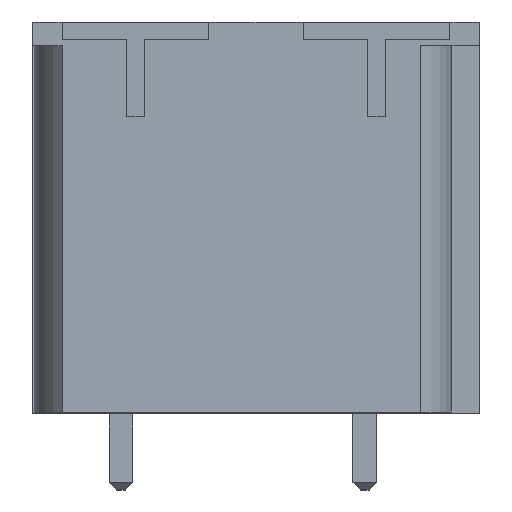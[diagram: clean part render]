
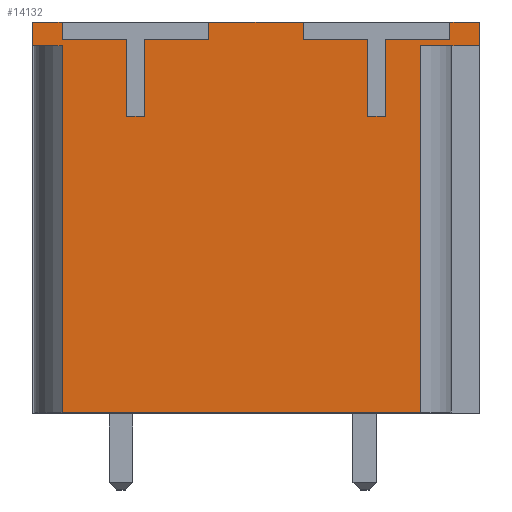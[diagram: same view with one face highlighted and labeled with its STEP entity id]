
A CAD part, top view. The second image highlights one B-rep face of the part: STEP entity #14132.
In plain terms, the highlighted planar face has unit normal (0, 0, 1).
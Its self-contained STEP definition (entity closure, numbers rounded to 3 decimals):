
#1538=DIRECTION('',(-1.,0.,0.));
#1539=VECTOR('',#1538,1.);
#1540=CARTESIAN_POINT('',(15.2,15.9,-10.873));
#1541=LINE('',#1540,#1539);
#1546=DIRECTION('',(-1.,0.,0.));
#1547=VECTOR('',#1546,3.2);
#1548=CARTESIAN_POINT('',(9.2,15.9,-10.873));
#1549=LINE('',#1548,#1547);
#1554=DIRECTION('',(-1.,0.,0.));
#1555=VECTOR('',#1554,1.);
#1556=CARTESIAN_POINT('',(1.,15.9,-10.873));
#1557=LINE('',#1556,#1555);
#2056=DIRECTION('',(0.,1.,0.));
#2057=VECTOR('',#2056,0.8);
#2058=CARTESIAN_POINT('',(15.2,15.1,-10.873));
#2059=LINE('',#2058,#2057);
#2650=DIRECTION('',(1.,0.,0.));
#2651=VECTOR('',#2650,12.2);
#2652=CARTESIAN_POINT('',(1.,2.6,-10.873));
#2653=LINE('',#2652,#2651);
#2955=DIRECTION('',(0.,-1.,0.));
#2956=VECTOR('',#2955,0.8);
#2957=CARTESIAN_POINT('',(0.,15.9,-10.873));
#2958=LINE('',#2957,#2956);
#2972=DIRECTION('',(0.,-1.,0.));
#2973=VECTOR('',#2972,12.5);
#2974=CARTESIAN_POINT('',(1.,15.1,-10.873));
#2975=LINE('',#2974,#2973);
#2980=DIRECTION('',(0.,1.,0.));
#2981=VECTOR('',#2980,0.6);
#2982=CARTESIAN_POINT('',(14.2,15.3,-10.873));
#2983=LINE('',#2982,#2981);
#2984=DIRECTION('',(-1.,0.,0.));
#2985=VECTOR('',#2984,2.);
#2986=CARTESIAN_POINT('',(15.2,15.1,-10.873));
#2987=LINE('',#2986,#2985);
#2988=DIRECTION('',(0.,-1.,0.));
#2989=VECTOR('',#2988,12.5);
#2990=CARTESIAN_POINT('',(13.2,15.1,-10.873));
#2991=LINE('',#2990,#2989);
#2992=DIRECTION('',(-1.,0.,0.));
#2993=VECTOR('',#2992,1.);
#2994=CARTESIAN_POINT('',(1.,15.1,-10.873));
#2995=LINE('',#2994,#2993);
#2996=DIRECTION('',(0.,1.,0.));
#2997=VECTOR('',#2996,0.6);
#2998=CARTESIAN_POINT('',(6.,15.3,-10.873));
#2999=LINE('',#2998,#2997);
#3000=DIRECTION('',(0.,1.,0.));
#3001=VECTOR('',#3000,0.6);
#3002=CARTESIAN_POINT('',(9.2,15.3,-10.873));
#3003=LINE('',#3002,#3001);
#3044=DIRECTION('',(-1.,0.,0.));
#3045=VECTOR('',#3044,2.2);
#3046=CARTESIAN_POINT('',(14.2,15.3,-10.873));
#3047=LINE('',#3046,#3045);
#3052=DIRECTION('',(0.,-1.,0.));
#3053=VECTOR('',#3052,2.6);
#3054=CARTESIAN_POINT('',(12.,15.3,-10.873));
#3055=LINE('',#3054,#3053);
#3060=DIRECTION('',(-1.,0.,0.));
#3061=VECTOR('',#3060,0.6);
#3062=CARTESIAN_POINT('',(12.,12.7,-10.873));
#3063=LINE('',#3062,#3061);
#3068=DIRECTION('',(0.,1.,0.));
#3069=VECTOR('',#3068,2.6);
#3070=CARTESIAN_POINT('',(11.4,12.7,-10.873));
#3071=LINE('',#3070,#3069);
#3076=DIRECTION('',(-1.,0.,0.));
#3077=VECTOR('',#3076,2.2);
#3078=CARTESIAN_POINT('',(11.4,15.3,-10.873));
#3079=LINE('',#3078,#3077);
#3125=DIRECTION('',(0.,1.,0.));
#3126=VECTOR('',#3125,0.6);
#3127=CARTESIAN_POINT('',(1.,15.3,-10.873));
#3128=LINE('',#3127,#3126);
#3169=DIRECTION('',(-1.,0.,0.));
#3170=VECTOR('',#3169,2.2);
#3171=CARTESIAN_POINT('',(6.,15.3,-10.873));
#3172=LINE('',#3171,#3170);
#3177=DIRECTION('',(0.,-1.,0.));
#3178=VECTOR('',#3177,2.6);
#3179=CARTESIAN_POINT('',(3.8,15.3,-10.873));
#3180=LINE('',#3179,#3178);
#3185=DIRECTION('',(-1.,0.,0.));
#3186=VECTOR('',#3185,0.6);
#3187=CARTESIAN_POINT('',(3.8,12.7,-10.873));
#3188=LINE('',#3187,#3186);
#3193=DIRECTION('',(0.,1.,0.));
#3194=VECTOR('',#3193,2.6);
#3195=CARTESIAN_POINT('',(3.2,12.7,-10.873));
#3196=LINE('',#3195,#3194);
#3201=DIRECTION('',(-1.,0.,0.));
#3202=VECTOR('',#3201,2.2);
#3203=CARTESIAN_POINT('',(3.2,15.3,-10.873));
#3204=LINE('',#3203,#3202);
#7460=CARTESIAN_POINT('',(15.2,15.1,-10.873));
#7461=VERTEX_POINT('',#7460);
#7462=CARTESIAN_POINT('',(15.2,15.9,-10.873));
#7463=VERTEX_POINT('',#7462);
#7586=CARTESIAN_POINT('',(14.2,15.9,-10.873));
#7587=VERTEX_POINT('',#7586);
#7592=CARTESIAN_POINT('',(9.2,15.9,-10.873));
#7593=VERTEX_POINT('',#7592);
#7594=CARTESIAN_POINT('',(6.,15.9,-10.873));
#7595=VERTEX_POINT('',#7594);
#7600=CARTESIAN_POINT('',(1.,15.9,-10.873));
#7601=VERTEX_POINT('',#7600);
#7602=CARTESIAN_POINT('',(0.,15.9,-10.873));
#7603=VERTEX_POINT('',#7602);
#7998=CARTESIAN_POINT('',(9.2,15.3,-10.873));
#7999=VERTEX_POINT('',#7998);
#8000=CARTESIAN_POINT('',(11.4,15.3,-10.873));
#8001=VERTEX_POINT('',#8000);
#8002=CARTESIAN_POINT('',(11.4,12.7,-10.873));
#8003=VERTEX_POINT('',#8002);
#8004=CARTESIAN_POINT('',(12.,12.7,-10.873));
#8005=VERTEX_POINT('',#8004);
#8006=CARTESIAN_POINT('',(12.,15.3,-10.873));
#8007=VERTEX_POINT('',#8006);
#8008=CARTESIAN_POINT('',(14.2,15.3,-10.873));
#8009=VERTEX_POINT('',#8008);
#8010=CARTESIAN_POINT('',(13.2,15.1,-10.873));
#8011=VERTEX_POINT('',#8010);
#8012=CARTESIAN_POINT('',(13.2,2.6,-10.873));
#8013=VERTEX_POINT('',#8012);
#8014=CARTESIAN_POINT('',(1.,2.6,-10.873));
#8015=VERTEX_POINT('',#8014);
#8016=CARTESIAN_POINT('',(1.,15.1,-10.873));
#8017=VERTEX_POINT('',#8016);
#8018=CARTESIAN_POINT('',(0.,15.1,-10.873));
#8019=VERTEX_POINT('',#8018);
#8020=CARTESIAN_POINT('',(1.,15.3,-10.873));
#8021=VERTEX_POINT('',#8020);
#8022=CARTESIAN_POINT('',(3.2,15.3,-10.873));
#8023=VERTEX_POINT('',#8022);
#8024=CARTESIAN_POINT('',(3.2,12.7,-10.873));
#8025=VERTEX_POINT('',#8024);
#8026=CARTESIAN_POINT('',(3.8,12.7,-10.873));
#8027=VERTEX_POINT('',#8026);
#8028=CARTESIAN_POINT('',(3.8,15.3,-10.873));
#8029=VERTEX_POINT('',#8028);
#8030=CARTESIAN_POINT('',(6.,15.3,-10.873));
#8031=VERTEX_POINT('',#8030);
#14085=CARTESIAN_POINT('',(0.,2.6,-10.873));
#14086=DIRECTION('',(0.,0.,-1.));
#14087=DIRECTION('',(0.,1.,0.));
#14088=AXIS2_PLACEMENT_3D('',#14085,#14086,#14087);
#14089=PLANE('',#14088);
#14091=ORIENTED_EDGE('',*,*,#14090,.F.);
#14093=ORIENTED_EDGE('',*,*,#14092,.F.);
#14095=ORIENTED_EDGE('',*,*,#14094,.F.);
#14097=ORIENTED_EDGE('',*,*,#14096,.F.);
#14099=ORIENTED_EDGE('',*,*,#14098,.F.);
#14101=ORIENTED_EDGE('',*,*,#14100,.F.);
#14103=ORIENTED_EDGE('',*,*,#14102,.T.);
#14104=ORIENTED_EDGE('',*,*,#12493,.F.);
#14105=ORIENTED_EDGE('',*,*,#12959,.F.);
#14107=ORIENTED_EDGE('',*,*,#14106,.T.);
#14109=ORIENTED_EDGE('',*,*,#14108,.T.);
#14110=ORIENTED_EDGE('',*,*,#13695,.F.);
#14111=ORIENTED_EDGE('',*,*,#14077,.F.);
#14112=ORIENTED_EDGE('',*,*,#14066,.T.);
#14113=ORIENTED_EDGE('',*,*,#14049,.F.);
#14114=ORIENTED_EDGE('',*,*,#12509,.F.);
#14116=ORIENTED_EDGE('',*,*,#14115,.F.);
#14118=ORIENTED_EDGE('',*,*,#14117,.F.);
#14120=ORIENTED_EDGE('',*,*,#14119,.F.);
#14122=ORIENTED_EDGE('',*,*,#14121,.F.);
#14124=ORIENTED_EDGE('',*,*,#14123,.F.);
#14126=ORIENTED_EDGE('',*,*,#14125,.F.);
#14128=ORIENTED_EDGE('',*,*,#14127,.T.);
#14129=ORIENTED_EDGE('',*,*,#12501,.F.);
#14130=EDGE_LOOP('',(#14091,#14093,#14095,#14097,#14099,#14101,#14103,#14104,
#14105,#14107,#14109,#14110,#14111,#14112,#14113,#14114,#14116,#14118,#14120,
#14122,#14124,#14126,#14128,#14129));
#14131=FACE_OUTER_BOUND('',#14130,.F.);
#14132=ADVANCED_FACE('',(#14131),#14089,.F.);
#12493=EDGE_CURVE('',#7463,#7587,#1541,.T.);
#12501=EDGE_CURVE('',#7593,#7595,#1549,.T.);
#12509=EDGE_CURVE('',#7601,#7603,#1557,.T.);
#12959=EDGE_CURVE('',#7461,#7463,#2059,.T.);
#13695=EDGE_CURVE('',#8015,#8013,#2653,.T.);
#14049=EDGE_CURVE('',#7603,#8019,#2958,.T.);
#14066=EDGE_CURVE('',#8017,#8019,#2995,.T.);
#14077=EDGE_CURVE('',#8017,#8015,#2975,.T.);
#14090=EDGE_CURVE('',#7999,#7593,#3003,.T.);
#14092=EDGE_CURVE('',#8001,#7999,#3079,.T.);
#14094=EDGE_CURVE('',#8003,#8001,#3071,.T.);
#14096=EDGE_CURVE('',#8005,#8003,#3063,.T.);
#14098=EDGE_CURVE('',#8007,#8005,#3055,.T.);
#14100=EDGE_CURVE('',#8009,#8007,#3047,.T.);
#14102=EDGE_CURVE('',#8009,#7587,#2983,.T.);
#14106=EDGE_CURVE('',#7461,#8011,#2987,.T.);
#14108=EDGE_CURVE('',#8011,#8013,#2991,.T.);
#14115=EDGE_CURVE('',#8021,#7601,#3128,.T.);
#14117=EDGE_CURVE('',#8023,#8021,#3204,.T.);
#14119=EDGE_CURVE('',#8025,#8023,#3196,.T.);
#14121=EDGE_CURVE('',#8027,#8025,#3188,.T.);
#14123=EDGE_CURVE('',#8029,#8027,#3180,.T.);
#14125=EDGE_CURVE('',#8031,#8029,#3172,.T.);
#14127=EDGE_CURVE('',#8031,#7595,#2999,.T.);
